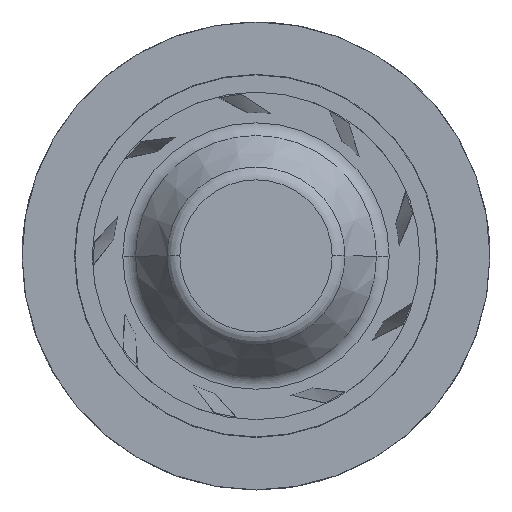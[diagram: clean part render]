
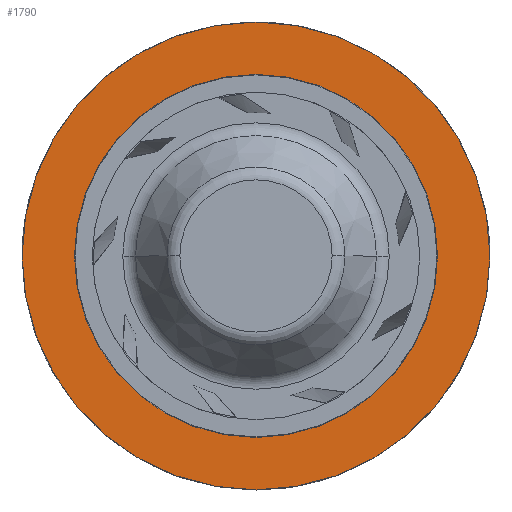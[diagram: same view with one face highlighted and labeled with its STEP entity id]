
A CAD part, top view. The second image highlights one B-rep face of the part: STEP entity #1790.
In plain terms, the highlighted planar face has unit normal (0, 0, 1).
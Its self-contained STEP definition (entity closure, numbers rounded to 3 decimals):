
#271 = DIRECTION ( 'NONE',  ( 1., 0., 0. ) ) ;
#388 = EDGE_CURVE ( 'NONE', #808, #1867, #3900, .T. ) ;
#505 = ORIENTED_EDGE ( 'NONE', *, *, #1132, .F. ) ;
#522 = EDGE_CURVE ( 'NONE', #3928, #2426, #1745, .T. ) ;
#696 = AXIS2_PLACEMENT_3D ( 'NONE', #1061, #2893, #1032 ) ;
#808 = VERTEX_POINT ( 'NONE', #2356 ) ;
#885 = FACE_BOUND ( 'NONE', #3111, .T. ) ;
#1023 = DIRECTION ( 'NONE',  ( 1., 0., 0. ) ) ;
#1032 = DIRECTION ( 'NONE',  ( 1., 0., 0. ) ) ;
#1061 = CARTESIAN_POINT ( 'NONE',  ( 0., 0., 20.5 ) ) ;
#1132 = EDGE_CURVE ( 'NONE', #2426, #3928, #2697, .T. ) ;
#1160 = DIRECTION ( 'NONE',  ( 0., 0., 1. ) ) ;
#1398 = CARTESIAN_POINT ( 'NONE',  ( 75., 0., 20.5 ) ) ;
#1522 = ORIENTED_EDGE ( 'NONE', *, *, #1558, .T. ) ;
#1558 = EDGE_CURVE ( 'NONE', #1867, #808, #1685, .T. ) ;
#1596 = ORIENTED_EDGE ( 'NONE', *, *, #388, .T. ) ;
#1603 = CARTESIAN_POINT ( 'NONE',  ( 58.2, 0., 20.5 ) ) ;
#1685 = CIRCLE ( 'NONE', #2753, 75. ) ;
#1745 = CIRCLE ( 'NONE', #696, 58.2 ) ;
#1790 = ADVANCED_FACE ( 'NONE', ( #2589, #885 ), #2424, .T. ) ;
#1844 = CARTESIAN_POINT ( 'NONE',  ( 0., 0., 20.5 ) ) ;
#1857 = DIRECTION ( 'NONE',  ( 0., 0., 1. ) ) ;
#1867 = VERTEX_POINT ( 'NONE', #1398 ) ;
#1876 = DIRECTION ( 'NONE',  ( 1., 0., 0. ) ) ;
#2145 = ORIENTED_EDGE ( 'NONE', *, *, #522, .F. ) ;
#2190 = DIRECTION ( 'NONE',  ( 0., 0., 1. ) ) ;
#2356 = CARTESIAN_POINT ( 'NONE',  ( -75., 0., 20.5 ) ) ;
#2424 = PLANE ( 'NONE',  #3123 ) ;
#2426 = VERTEX_POINT ( 'NONE', #4170 ) ;
#2492 = AXIS2_PLACEMENT_3D ( 'NONE', #1844, #1857, #1876 ) ;
#2531 = CARTESIAN_POINT ( 'NONE',  ( 0., 0., 20.5 ) ) ;
#2589 = FACE_OUTER_BOUND ( 'NONE', #4192, .T. ) ;
#2697 = CIRCLE ( 'NONE', #3584, 58.2 ) ;
#2753 = AXIS2_PLACEMENT_3D ( 'NONE', #2531, #3520, #271 ) ;
#2758 = CARTESIAN_POINT ( 'NONE',  ( 75., 0., 20.5 ) ) ;
#2893 = DIRECTION ( 'NONE',  ( 0., 0., 1. ) ) ;
#3111 = EDGE_LOOP ( 'NONE', ( #505, #2145 ) ) ;
#3123 = AXIS2_PLACEMENT_3D ( 'NONE', #2758, #1160, #3425 ) ;
#3400 = CARTESIAN_POINT ( 'NONE',  ( 0., 0., 20.5 ) ) ;
#3425 = DIRECTION ( 'NONE',  ( 1., 0., 0. ) ) ;
#3520 = DIRECTION ( 'NONE',  ( 0., 0., 1. ) ) ;
#3584 = AXIS2_PLACEMENT_3D ( 'NONE', #3400, #2190, #1023 ) ;
#3900 = CIRCLE ( 'NONE', #2492, 75. ) ;
#3928 = VERTEX_POINT ( 'NONE', #1603 ) ;
#4170 = CARTESIAN_POINT ( 'NONE',  ( -58.2, 0., 20.5 ) ) ;
#4192 = EDGE_LOOP ( 'NONE', ( #1596, #1522 ) ) ;
